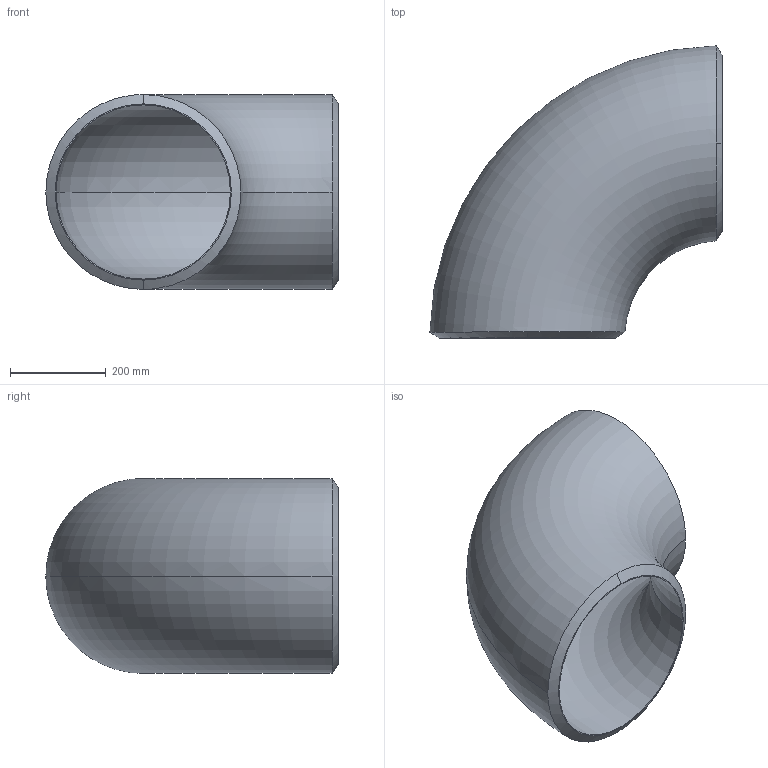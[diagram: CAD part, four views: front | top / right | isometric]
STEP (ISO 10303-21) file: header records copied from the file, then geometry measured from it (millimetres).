
FILE_DESCRIPTION (( 'STEP AP214' ), '1' );
FILE_NAME ('Elbow-short-90deg_Sch80-400A.STEP', '2022-05-18T07:01:19', ( 'ASIS User' ), ( 'ASIS User' ), 'SwSTEP 2.0', 'SolidWorks 2022', '' );
FILE_SCHEMA (( 'AUTOMOTIVE_DESIGN' ));
Length unit declared in the file: millimetre
Products named in the file (1): Elbow-short-90deg_Sch80-400A
Bounding box: 609.48 x 609.48 x 406.4 mm (x, y, z)
Volume: 16226146.8 mm3; surface area: 1573282.8 mm2
Topology: 1 solids, 1 shells, 10 faces, 24 edges, 16 vertices
Faces by surface type: torus 4, cone 4, plane 2
Entity records: 718 total; most frequent: CARTESIAN_POINT 447, DIRECTION 50, ORIENTED_EDGE 48, EDGE_CURVE 24, AXIS2_PLACEMENT_3D 23, VERTEX_POINT 16, CIRCLE 12, EDGE_LOOP 12
